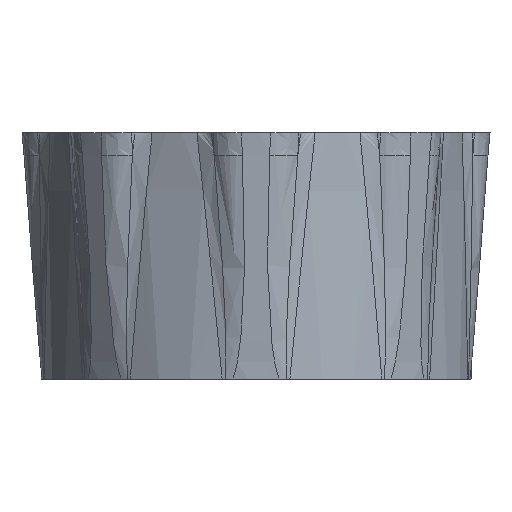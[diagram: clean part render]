
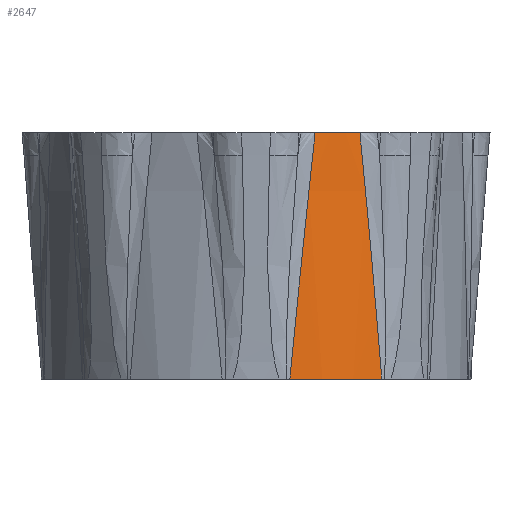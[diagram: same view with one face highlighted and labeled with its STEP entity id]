
A CAD part, front view. The second image highlights one B-rep face of the part: STEP entity #2647.
In plain terms, the highlighted cylindrical face has radius 39.2 mm (diameter 78.4 mm), a partial arc.
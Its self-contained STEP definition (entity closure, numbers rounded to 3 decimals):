
#35=CYLINDRICAL_SURFACE('',#2827,39.2);
#158=ELLIPSE('',#2823,575.766,39.2);
#160=ELLIPSE('',#2826,575.766,39.2);
#241=FACE_OUTER_BOUND('',#403,.T.);
#403=EDGE_LOOP('',(#1746,#1747,#1748,#1749));
#548=CIRCLE('',#2828,39.2);
#549=CIRCLE('',#2829,39.2);
#947=VERTEX_POINT('',#4750);
#948=VERTEX_POINT('',#4758);
#950=VERTEX_POINT('',#4805);
#951=VERTEX_POINT('',#4831);
#1258=EDGE_CURVE('',#947,#948,#158,.T.);
#1263=EDGE_CURVE('',#950,#951,#160,.T.);
#1265=EDGE_CURVE('',#951,#947,#548,.T.);
#1266=EDGE_CURVE('',#948,#950,#549,.T.);
#1746=ORIENTED_EDGE('',*,*,#1258,.F.);
#1747=ORIENTED_EDGE('',*,*,#1265,.F.);
#1748=ORIENTED_EDGE('',*,*,#1263,.F.);
#1749=ORIENTED_EDGE('',*,*,#1266,.F.);
#2647=ADVANCED_FACE('',(#241),#35,.T.);
#2823=AXIS2_PLACEMENT_3D('',#4759,#3087,#3088);
#2826=AXIS2_PLACEMENT_3D('',#4832,#3094,#3095);
#2827=AXIS2_PLACEMENT_3D('',#4840,#3096,#3097);
#2828=AXIS2_PLACEMENT_3D('',#4841,#3098,#3099);
#2829=AXIS2_PLACEMENT_3D('',#4842,#3100,#3101);
#3087=DIRECTION('center_axis',(-0.797,0.6,0.068));
#3088=DIRECTION('ref_axis',(0.054,-0.041,0.998));
#3094=DIRECTION('center_axis',(0.14,0.988,0.068));
#3095=DIRECTION('ref_axis',(-0.01,-0.067,0.998));
#3096=DIRECTION('center_axis',(0.,0.,-1.));
#3097=DIRECTION('ref_axis',(0.235,-0.972,0.));
#3098=DIRECTION('center_axis',(0.,0.,-1.));
#3099=DIRECTION('ref_axis',(0.235,-0.972,0.));
#3100=DIRECTION('center_axis',(0.,0.,1.));
#3101=DIRECTION('ref_axis',(0.235,-0.972,0.));
#4750=CARTESIAN_POINT('',(6.189,-38.708,22.));
#4758=CARTESIAN_POINT('',(10.804,-37.682,67.));
#4759=CARTESIAN_POINT('Origin',(0.,0.,-391.491));
#4805=CARTESIAN_POINT('',(19.005,-34.285,67.));
#4831=CARTESIAN_POINT('',(22.995,-31.747,22.));
#4832=CARTESIAN_POINT('Origin',(0.,0.,-391.491));
#4840=CARTESIAN_POINT('Origin',(0.,0.,67.));
#4841=CARTESIAN_POINT('Origin',(0.,0.,22.));
#4842=CARTESIAN_POINT('Origin',(0.,0.,67.));
